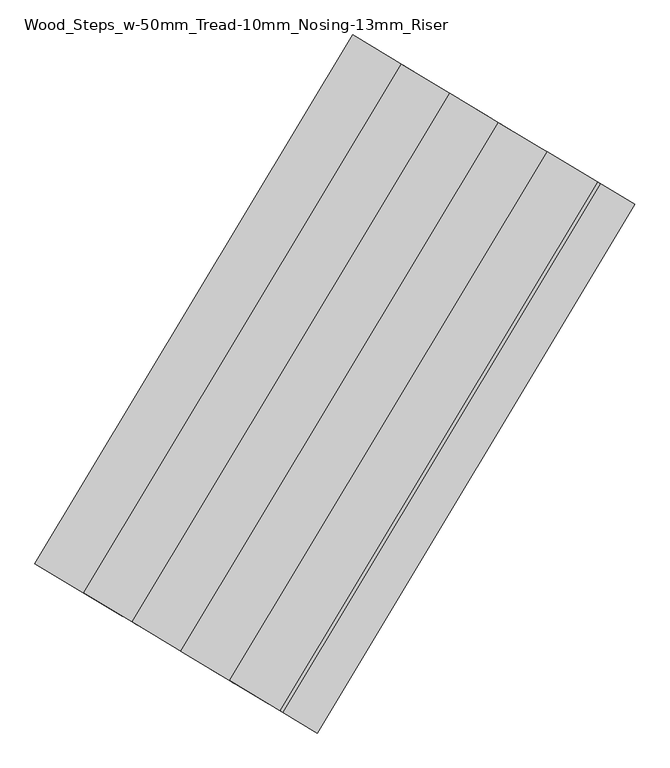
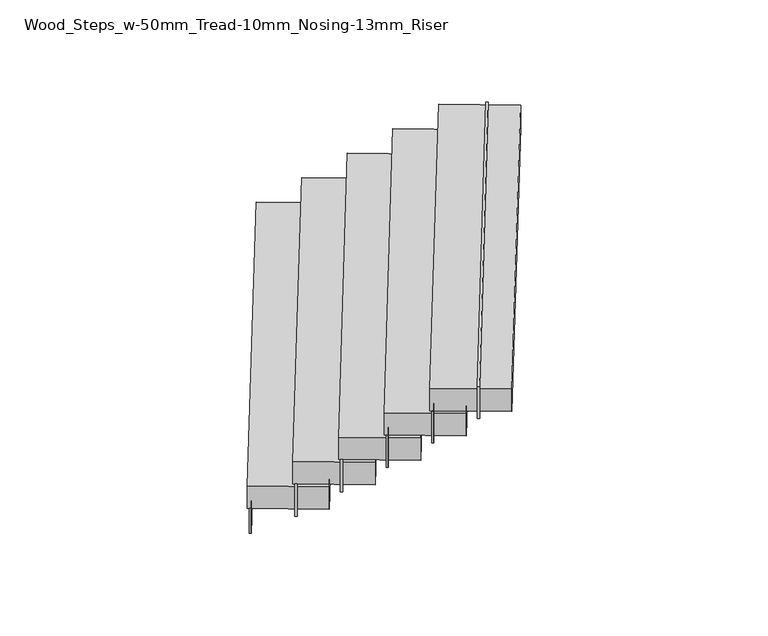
"""IFC4 building model written with IfcOpenShell, lengths in millimetres: stair flight geometry, Wood_Steps_w-50mm_Tread-10mm_Nosing-13mm_Riser."""

import ifcopenshell
import ifcopenshell.guid

model = None  # the IFC model being written
_history = None  # IfcOwnerHistory: only IFC2X3 demands one
_inside = {}  # id of a spatial element -> (the spatial element, [elements in it])
_under = {}  # id of a project, library or spatial element -> (it, [spatial elements below it])
_declared = {}  # id of a project -> (the project, [libraries it declares])
_typed = {}  # id of a type object -> (the type object, [elements of that type])
_made_of = {}  # id of a material, layer set ... -> (it, [elements and type objects made of it])


def new_model(schema):
    """Start an empty IFC model of exactly this schema.

    Asked for "IFC4X3", IfcOpenShell would pick the latest addendum, in which some entities
    have other attributes; the version numbers below select the first issue.
    IFC2X3 requires an IfcOwnerHistory on every rooted entity: one is made here for all.
    """
    global model, _history
    if schema == "IFC4X3":
        model = ifcopenshell.file(schema_version=(4, 3, 0, 0))
    else:
        model = ifcopenshell.file(schema=schema)
    _inside.clear()
    _under.clear()
    _declared.clear()
    _typed.clear()
    _made_of.clear()
    _history = None
    if model.schema == "IFC2X3":
        org = make("IfcOrganization", Name="unknown")
        user = make(
            "IfcPersonAndOrganization",
            ThePerson=make("IfcPerson", FamilyName="unknown"),
            TheOrganization=org,
        )
        app = make(
            "IfcApplication",
            ApplicationDeveloper=org,
            Version="unknown",
            ApplicationFullName="unknown",
            ApplicationIdentifier="unknown",
        )
        _history = make(
            "IfcOwnerHistory",
            OwningUser=user,
            OwningApplication=app,
            ChangeAction="ADDED",
            CreationDate=0,
        )
    return model


def make(cls, **values):
    """One entity of the class cls with the attributes given. An attribute that is None is left unset."""
    return model.create_entity(
        cls, **{name: value for name, value in values.items() if value is not None}
    )


def rooted(cls, **values):
    """An entity with a GlobalId (a new one), such as an element, a storey or a relation."""
    return make(cls, GlobalId=ifcopenshell.guid.new(), OwnerHistory=_history, **values)


def si_unit(unit_type, name, prefix=None):
    """IfcSIUnit, for example si_unit("LENGTHUNIT", "METRE", prefix="MILLI")."""
    return make("IfcSIUnit", UnitType=unit_type, Prefix=prefix, Name=name)


def assignment(units):
    """IfcUnitAssignment: the units of a project."""
    return None if units is None else make("IfcUnitAssignment", Units=units)


def point(xyz):
    """IfcCartesianPoint."""
    return None if xyz is None else make("IfcCartesianPoint", Coordinates=xyz)


def direction(xyz):
    """IfcDirection."""
    return None if xyz is None else make("IfcDirection", DirectionRatios=xyz)


def frame(location, z_axis=None, x_axis=None):
    """IfcAxis2Placement3D, a coordinate frame: its origin and axes. An axis left out is left unset."""
    return make(
        "IfcAxis2Placement3D",
        Location=point(location),
        Axis=direction(z_axis),
        RefDirection=direction(x_axis),
    )


def origin():
    """The frame at (0, 0, 0) with its axes left unset."""
    return frame((0.0, 0.0, 0.0))


def origin_with_axes():
    """The frame at (0, 0, 0) with the z axis (0, 0, 1) and the x axis (1, 0, 0) written out."""
    return frame((0.0, 0.0, 0.0), z_axis=(0.0, 0.0, 1.0), x_axis=(1.0, 0.0, 0.0))


def place(relative_to, where):
    """IfcLocalPlacement: puts the frame where relative to a parent placement (None: the world)."""
    return make(
        "IfcLocalPlacement", PlacementRelTo=relative_to, RelativePlacement=where
    )


def context(
    kind, dimensions, precision=None, world=None, true_north=None, identifier=None
):
    """IfcGeometricRepresentationContext, for example the 3D "Model" context."""
    return make(
        "IfcGeometricRepresentationContext",
        ContextIdentifier=identifier,
        ContextType=kind,
        CoordinateSpaceDimension=dimensions,
        Precision=precision,
        WorldCoordinateSystem=world,
        TrueNorth=true_north,
    )


def project(units=None, contexts=None):
    """IfcProject with its units and contexts."""
    return rooted(
        "IfcProject",
        Name="project",
        RepresentationContexts=contexts,
        UnitsInContext=assignment(units),
    )


def spatial(cls, under=None, at=None, **own):
    """A site, building, storey or space (cls), placed at a placement, below another one or the project."""
    s = rooted(cls, ObjectPlacement=at, **own)
    if under is not None:
        _under.setdefault(under.id(), (under, []))[1].append(s)
    return s


def polyline(points):
    """IfcPolyline through the points."""
    return make("IfcPolyline", Points=[point(p) for p in points])


def outline(outer, holes=None, kind="AREA"):
    """IfcArbitraryClosedProfileDef: a profile drawn as a closed curve; with holes, ...WithVoids."""
    if holes is None:
        return make("IfcArbitraryClosedProfileDef", ProfileType=kind, OuterCurve=outer)
    return make(
        "IfcArbitraryProfileDefWithVoids",
        ProfileType=kind,
        OuterCurve=outer,
        InnerCurves=holes,
    )


def extrude(swept, where, along, depth):
    """IfcExtrudedAreaSolid: the profile swept, set in the frame where, extruded along a direction by depth."""
    return make(
        "IfcExtrudedAreaSolid",
        SweptArea=swept,
        Position=where,
        ExtrudedDirection=direction(along),
        Depth=depth,
    )


def shape(context_of_items, identifier, shape_type, items):
    """IfcShapeRepresentation: the items that make up one representation, for example the "Body"."""
    return make(
        "IfcShapeRepresentation",
        ContextOfItems=context_of_items,
        RepresentationIdentifier=identifier,
        RepresentationType=shape_type,
        Items=items,
    )


def source(mapping_origin, context_of_items, identifier, shape_type, items):
    """IfcRepresentationMap: a shape defined once, which mapped items show again and again."""
    return make(
        "IfcRepresentationMap",
        MappingOrigin=mapping_origin,
        MappedRepresentation=shape(context_of_items, identifier, shape_type, items),
    )


def transform(
    local_origin,
    x_axis=None,
    y_axis=None,
    z_axis=None,
    scale=None,
    scale2=None,
    scale3=None,
    uniform=True,
):
    """IfcCartesianTransformationOperator3D, or its non-uniform kind. x_axis, y_axis, z_axis: its Axis1, 2, 3."""
    if uniform:
        return make(
            "IfcCartesianTransformationOperator3D",
            Axis1=direction(x_axis),
            Axis2=direction(y_axis),
            LocalOrigin=point(local_origin),
            Scale=scale,
            Axis3=direction(z_axis),
        )
    return make(
        "IfcCartesianTransformationOperator3DnonUniform",
        Axis1=direction(x_axis),
        Axis2=direction(y_axis),
        LocalOrigin=point(local_origin),
        Scale=scale,
        Axis3=direction(z_axis),
        Scale2=scale2,
        Scale3=scale3,
    )


def mapped(mapping_source, mapping_target):
    """IfcMappedItem: shows the shape of a source again, moved by a transform."""
    return make(
        "IfcMappedItem", MappingSource=mapping_source, MappingTarget=mapping_target
    )


def made_of(thing, what):
    """Note that an element or type object is made of a material, layer set ...; save() writes the relation."""
    if what is not None:
        _made_of.setdefault(what.id(), (what, []))[1].append(thing)
    return thing


def element(
    cls,
    number,
    at=None,
    inside=None,
    cuts=None,
    type_object=None,
    material=None,
    context=None,
    identifier="Body",
    shape_type=None,
    held_by="IfcProductDefinitionShape",
    body=None,
    shapes=None,
    **own,
):
    """One element of the class cls, such as IfcWall. Its Tag is "e" and its number.

    at: its placement. inside: the storey or other place that contains it. cuts: it is an
    opening in that element (IfcRelVoidsElement). A single representation is given by context,
    identifier, shape_type and body (its items); several are given by shapes. held_by: the class
    of the entity that holds the representations. save() writes the other relations.
    """
    e = rooted(cls, Tag="e%d" % number, ObjectPlacement=at, **own)
    if body is not None:
        shapes = [shape(context, identifier, shape_type, body)]
    if shapes is not None:
        e.Representation = make(held_by, Representations=shapes)
    if inside is not None:
        _inside.setdefault(inside.id(), (inside, []))[1].append(e)
    if cuts is not None:
        rooted(
            "IfcRelVoidsElement", RelatingBuildingElement=cuts, RelatedOpeningElement=e
        )
    if type_object is not None:
        _typed.setdefault(type_object.id(), (type_object, []))[1].append(e)
    return made_of(e, material)


def aggregate(whole, parts):
    """IfcRelAggregates: a whole, such as a stair, and the parts it consists of."""
    return rooted("IfcRelAggregates", RelatingObject=whole, RelatedObjects=parts)


def save(model, path):
    """Write the relations noted so far, then the file.

    IfcRelAggregates (storeys below a building ...), IfcRelContainedInSpatialStructure (elements
    in a storey), IfcRelDefinesByType, IfcRelAssociatesMaterial and IfcRelDeclares: one each for
    every whole, place, type object, material and project.
    """
    for whole, parts in _under.values():
        aggregate(whole, parts)
    for where, things in _inside.values():
        rooted(
            "IfcRelContainedInSpatialStructure",
            RelatedElements=things,
            RelatingStructure=where,
        )
    for kind, things in _typed.values():
        rooted("IfcRelDefinesByType", RelatedObjects=things, RelatingType=kind)
    for what, things in _made_of.values():
        rooted("IfcRelAssociatesMaterial", RelatedObjects=things, RelatingMaterial=what)
    for by, libraries in _declared.values():
        rooted("IfcRelDeclares", RelatingContext=by, RelatedDefinitions=libraries)
    model.write(path)


def wood_steps_w_50mm_tread_10mm_nosing_13mm_riser_463dac38(model_context):
    return source(origin(), model_context, "Body", "SweptSolid", [
        extrude(outline(polyline([(3200.8157697, 11399.1787288), (3190.1011785, 11405.6167047), (4589.1509072, 13734.0264632), (4599.8654985, 13727.5884872), (3200.8157697, 11399.1787288)])), origin_with_axes(), (0.0, 0.0, 1.0), 166.6666667),
        extrude(outline(polyline([(3415.1075949, 11270.4192101), (3404.3930036, 11276.857186), (4803.4427324, 13605.2669444), (4814.1573237, 13598.8289685), (3415.1075949, 11270.4192101)])), frame((0.0, 0.0, 116.6666667), z_axis=(0.0, 0.0, 1.0), x_axis=(1.0, 0.0, 0.0)), (0.0, 0.0, 1.0), 216.6666667),
        extrude(outline(polyline([(3629.3994201, 11141.6596914), (3618.6848288, 11148.0976673), (5017.7345576, 13476.5074257), (5028.4491489, 13470.0694498), (3629.3994201, 11141.6596914)])), frame((0.0, 0.0, 283.3333333), z_axis=(0.0, 0.0, 1.0), x_axis=(1.0, 0.0, 0.0)), (0.0, 0.0, 1.0), 216.6666667),
        extrude(outline(polyline([(3843.6912452, 11012.9001726), (3832.976654, 11019.3381486), (5232.0263828, 13347.747907), (5242.740974, 13341.309931), (3843.6912452, 11012.9001726)])), frame((0.0, 0.0, 450.0), z_axis=(0.0, 0.0, 1.0), x_axis=(1.0, 0.0, 0.0)), (0.0, 0.0, 1.0), 216.6666667),
        extrude(outline(polyline([(4057.9830704, 10884.1406539), (4047.2684792, 10890.5786298), (5446.3182079, 13218.9883883), (5457.0327992, 13212.5504123), (4057.9830704, 10884.1406539)])), frame((0.0, 0.0, 616.6666667), z_axis=(0.0, 0.0, 1.0), x_axis=(1.0, 0.0, 0.0)), (0.0, 0.0, 1.0), 216.6666667),
        extrude(outline(polyline([(4272.2748956, 10755.3811352), (4261.5603043, 10761.8191111), (5660.6100331, 13090.2288695), (5671.3246244, 13083.7908936), (4272.2748956, 10755.3811352)])), frame((0.0, 0.0, 783.3333333), z_axis=(0.0, 0.0, 1.0), x_axis=(1.0, 0.0, 0.0)), (0.0, 0.0, 1.0), 216.6666667),
        extrude(outline(polyline([(3567.2547908, 11178.9999518), (3181.5295054, 11410.7670855), (4580.5792342, 13739.1768439), (4966.3045196, 13507.4097102), (3567.2547908, 11178.9999518)])), frame((0.0, 0.0, 166.6666667), z_axis=(0.0, 0.0, 1.0), x_axis=(1.0, 0.0, 0.0)), (0.0, 0.0, 1.0), 150.0),
        extrude(outline(polyline([(3781.5466159, 11050.2404331), (3395.8213306, 11282.0075668), (4794.8710594, 13610.4173252), (5180.5963447, 13378.6501915), (3781.5466159, 11050.2404331)])), frame((0.0, 0.0, 333.3333333), z_axis=(0.0, 0.0, 1.0), x_axis=(1.0, 0.0, 0.0)), (0.0, 0.0, 1.0), 150.0),
        extrude(outline(polyline([(3995.8384411, 10921.4809143), (3610.1131558, 11153.248048), (5009.1628846, 13481.6578065), (5394.8881699, 13249.8906727), (3995.8384411, 10921.4809143)])), frame((0.0, 0.0, 500.0), z_axis=(0.0, 0.0, 1.0), x_axis=(1.0, 0.0, 0.0)), (0.0, 0.0, 1.0), 150.0),
        extrude(outline(polyline([(4210.1302663, 10792.7213956), (3824.404981, 11024.4885293), (5223.4547098, 13352.8982877), (5609.1799951, 13121.131154), (4210.1302663, 10792.7213956)])), frame((0.0, 0.0, 666.6666667), z_axis=(0.0, 0.0, 1.0), x_axis=(1.0, 0.0, 0.0)), (0.0, 0.0, 1.0), 150.0),
        extrude(outline(polyline([(4424.4220915, 10663.9618769), (4038.6968062, 10895.7290106), (5437.7465349, 13224.138769), (5823.4718203, 12992.3716353), (4424.4220915, 10663.9618769)])), frame((0.0, 0.0, 833.3333333), z_axis=(0.0, 0.0, 1.0), x_axis=(1.0, 0.0, 0.0)), (0.0, 0.0, 1.0), 150.0),
    ])


if __name__ == "__main__":
    model = new_model("IFC4")
    model_context = context("Model", 3, world=origin())
    ifc_project = project(units=[si_unit("LENGTHUNIT", "METRE", prefix="MILLI")], contexts=[model_context])
    site = spatial("IfcSite", under=ifc_project)
    building = spatial("IfcBuilding", under=site)
    placement = place(None, origin())
    wood_steps_w_50mm_tread_10mm_nosing_13mm_riser_shape = wood_steps_w_50mm_tread_10mm_nosing_13mm_riser_463dac38(model_context)
    element("IfcStairFlight", 1, ObjectType="Wood_Steps_w-50mm_Tread-10mm_Nosing-13mm_Riser", at=placement, inside=building, context=model_context, shape_type="MappedRepresentation", body=[
        mapped(wood_steps_w_50mm_tread_10mm_nosing_13mm_riser_shape, transform((0.0, 0.0, 0.0), x_axis=(1.0, 0.0, 0.0), y_axis=(0.0, 1.0, 0.0), z_axis=(0.0, 0.0, 1.0))),
    ])
    save(model, "model.ifc")
